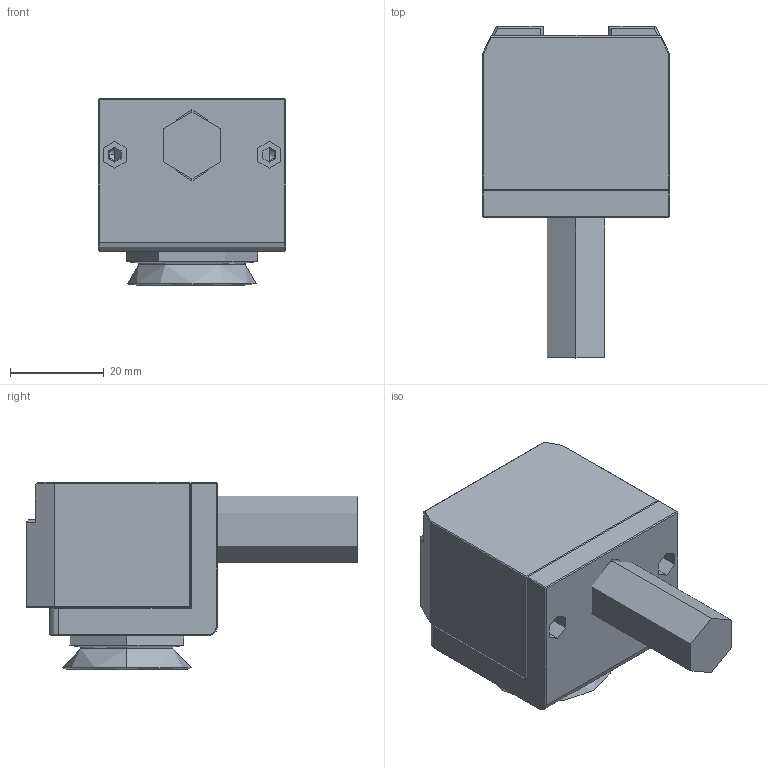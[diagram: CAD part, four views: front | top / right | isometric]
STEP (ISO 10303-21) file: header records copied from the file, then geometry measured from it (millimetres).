
FILE_DESCRIPTION (( 'STEP AP203' ), '1' );
FILE_NAME ('QCSM-08R-1000.STEP', '2024-07-30T09:28:38', ( '微软用户' ), ( '微软中国' ), 'SwSTEP 2.0', 'SolidWorks 2018', '' );
FILE_SCHEMA (( 'CONFIG_CONTROL_DESIGN' ));
Length unit declared in the file: millimetre
Products named in the file (1): QCSM-08R-1000
Bounding box: 40 x 70.8 x 39.9 mm (x, y, z)
Topology: 0 solids, 102 shells, 1721 faces, 4582 edges, 3134 vertices
Faces by surface type: plane 856, cylinder 394, bspline 283, cone 188
Entity records: 70496 total; most frequent: CARTESIAN_POINT 32604, ORIENTED_EDGE 8750, DIRECTION 5820, EDGE_CURVE 4525, VERTEX_POINT 3103, B_SPLINE_CURVE_WITH_KNOTS 2211, AXIS2_PLACEMENT_3D 2069, EDGE_LOOP 1910
